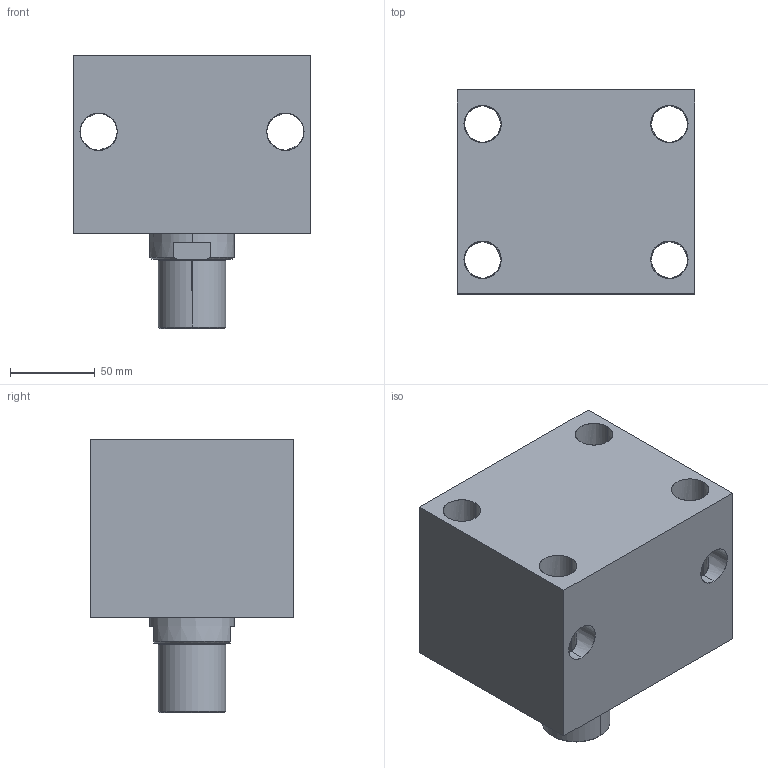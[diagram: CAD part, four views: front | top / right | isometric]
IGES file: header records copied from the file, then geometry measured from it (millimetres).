
Start section: SolidWorks IGES file using analytic representation for surfaces
Global section: file name: D:\karuppas\Clasp\3D model\Block cylinder B01C-Male thread - Copy\B01C-825M\Block cylinder B01C-825M.IGS; native system: SolidWorks 2017; preprocessor: SolidWorks 2017; author: pc; date: 220709.234836; units: millimetre
Bounding box: 140 x 120 x 161 mm (x, y, z)
Surface area: 164469.7 mm2 (no closed solid volume)
Topology: 0 solids, 0 shells, 361 faces, 5782 edges, 5778 vertices
Faces by surface type: bspline 307, revolution 54
